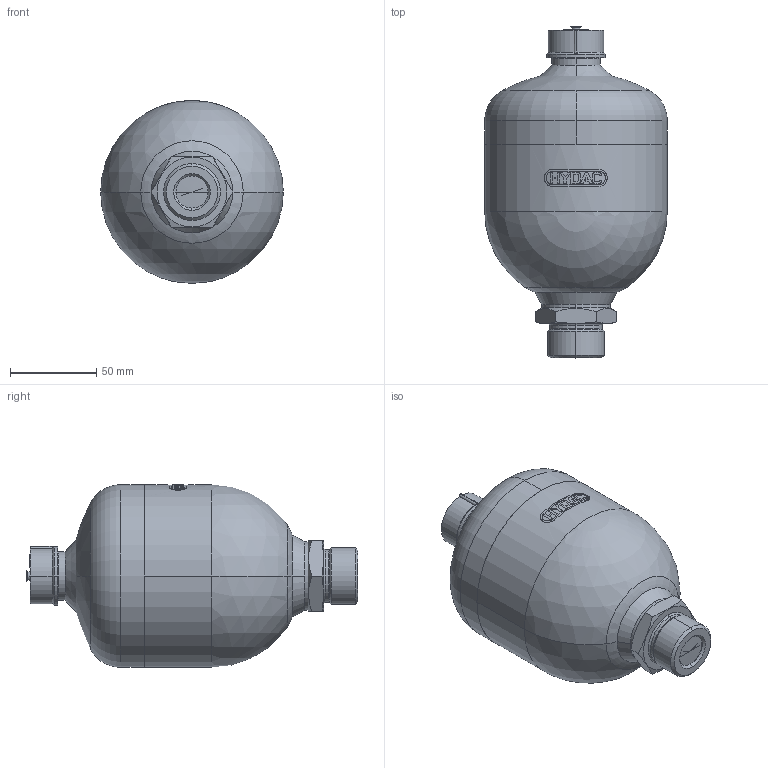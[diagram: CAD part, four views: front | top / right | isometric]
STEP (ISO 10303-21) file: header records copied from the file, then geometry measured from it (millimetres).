
FILE_DESCRIPTION (( 'STEP AP214' ), '1' );
FILE_NAME ('HYDAC-10000793898-SWB-000_01.STEP', '2021-02-12T10:12:05', ( '' ), ( '' ), 'SwSTEP 2.0', 'SolidWorks 2020', '' );
FILE_SCHEMA (( 'AUTOMOTIVE_DESIGN' ));
Length unit declared in the file: millimetre
Products named in the file (1): HYDAC-10000793898-SWB-000_01
Bounding box: 106 x 192.69 x 106.01 mm (x, y, z)
Volume: 1002575 mm3; surface area: 56719.5 mm2
Topology: 1 solids, 1 shells, 204 faces, 500 edges, 316 vertices
Faces by surface type: plane 81, cylinder 48, bspline 26, cone 25, torus 18, sphere 6
Entity records: 8501 total; most frequent: CARTESIAN_POINT 3107, ORIENTED_EDGE 988, DIRECTION 929, EDGE_CURVE 494, AXIS2_PLACEMENT_3D 378, VERTEX_POINT 314, EDGE_LOOP 226, FACE_OUTER_BOUND 204
